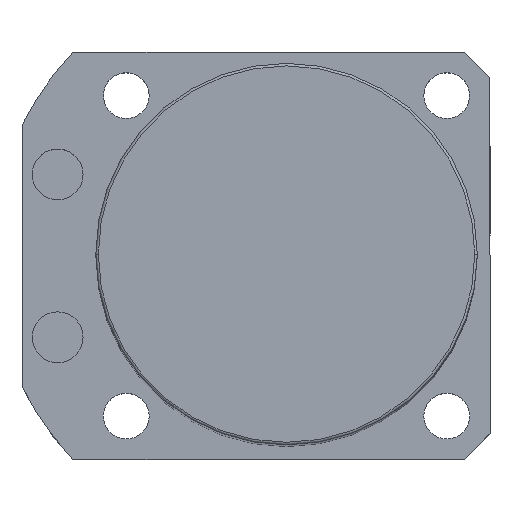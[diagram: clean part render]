
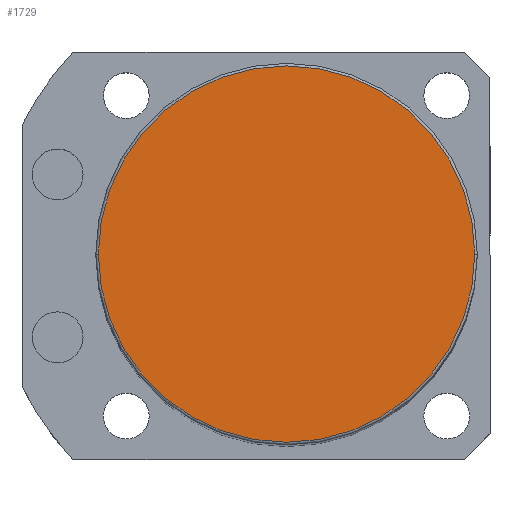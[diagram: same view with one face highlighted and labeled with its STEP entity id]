
A CAD part, top view. The second image highlights one B-rep face of the part: STEP entity #1729.
In plain terms, the highlighted planar face has unit normal (0, 0, 1).
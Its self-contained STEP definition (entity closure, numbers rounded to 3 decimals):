
#135 = DIRECTION ( 'NONE',  ( 0., 0., 1. ) ) ;
#151 = EDGE_LOOP ( 'NONE', ( #673, #248 ) ) ;
#218 = CARTESIAN_POINT ( 'NONE',  ( 0., 0., 215.5 ) ) ;
#248 = ORIENTED_EDGE ( 'NONE', *, *, #595, .T. ) ;
#539 = CARTESIAN_POINT ( 'NONE',  ( 0., 0., 215.5 ) ) ;
#595 = EDGE_CURVE ( 'NONE', #756, #2141, #1003, .T. ) ;
#673 = ORIENTED_EDGE ( 'NONE', *, *, #956, .T. ) ;
#756 = VERTEX_POINT ( 'NONE', #1188 ) ;
#877 = PLANE ( 'NONE',  #2560 ) ;
#920 = DIRECTION ( 'NONE',  ( 1., 0., 0. ) ) ;
#956 = EDGE_CURVE ( 'NONE', #2141, #756, #1199, .T. ) ;
#1003 = CIRCLE ( 'NONE', #2255, 37. ) ;
#1055 = DIRECTION ( 'NONE',  ( 1., 0., 0. ) ) ;
#1188 = CARTESIAN_POINT ( 'NONE',  ( -37., 0., 215.5 ) ) ;
#1199 = CIRCLE ( 'NONE', #2345, 37. ) ;
#1251 = DIRECTION ( 'NONE',  ( 0., 0., 1. ) ) ;
#1450 = CARTESIAN_POINT ( 'NONE',  ( 37., 0., 215.5 ) ) ;
#1627 = DIRECTION ( 'NONE',  ( 1., 0., 0. ) ) ;
#1667 = CARTESIAN_POINT ( 'NONE',  ( 0., 0., 215.5 ) ) ;
#1729 = ADVANCED_FACE ( 'NONE', ( #2441 ), #877, .T. ) ;
#2141 = VERTEX_POINT ( 'NONE', #1450 ) ;
#2226 = DIRECTION ( 'NONE',  ( 0., 0., 1. ) ) ;
#2255 = AXIS2_PLACEMENT_3D ( 'NONE', #539, #135, #920 ) ;
#2345 = AXIS2_PLACEMENT_3D ( 'NONE', #1667, #2226, #1055 ) ;
#2441 = FACE_OUTER_BOUND ( 'NONE', #151, .T. ) ;
#2560 = AXIS2_PLACEMENT_3D ( 'NONE', #218, #1251, #1627 ) ;
